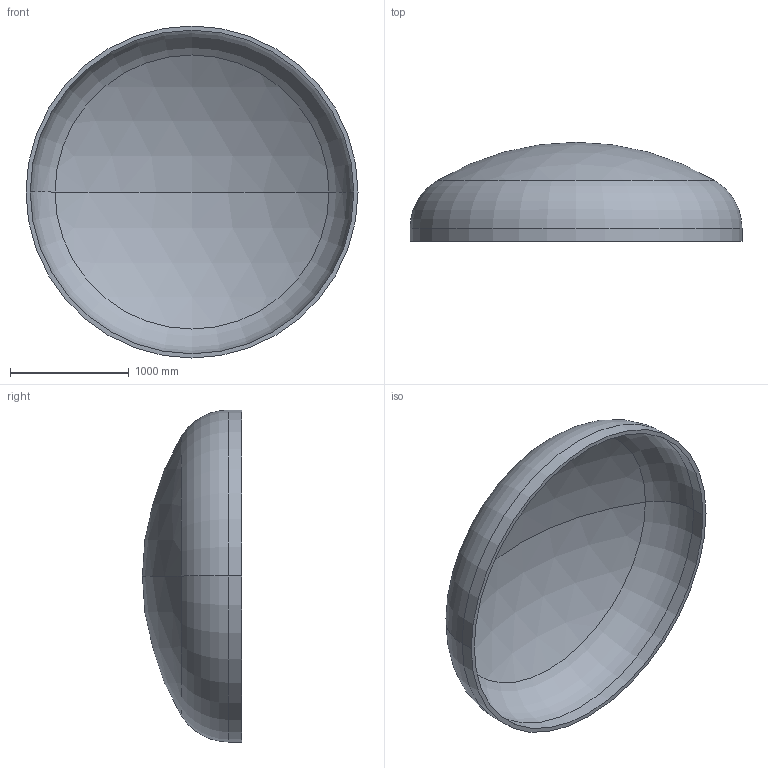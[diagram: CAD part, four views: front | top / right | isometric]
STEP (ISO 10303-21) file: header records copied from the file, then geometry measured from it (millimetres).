
FILE_DESCRIPTION (( 'STEP AP203' ), '1' );
FILE_NAME ('DIN 28013 Korbbogenform_-_Boden DIN 28013 - 2800 x 110 - I - s=36.step', '2016-07-01T16:55:46', ( '' ), ( '' ), 'SwSTEP 2.0', 'SolidWorks 2013', '' );
FILE_SCHEMA (( 'CONFIG_CONTROL_DESIGN' ));
Length unit declared in the file: millimetre
Products named in the file (1): DIN 28013 Korbbogenform_-_Boden DIN 28013 - 2800 x 110 - I - s=36
Bounding box: 2800 x 835.6 x 2800 mm (x, y, z)
Volume: 336058098.5 mm3; surface area: 18985203.1 mm2
Topology: 1 solids, 1 shells, 13 faces, 24 edges, 14 vertices
Faces by surface type: torus 4, cylinder 4, sphere 4, plane 1
Entity records: 407 total; most frequent: DIRECTION 72, CARTESIAN_POINT 52, ORIENTED_EDGE 48, AXIS2_PLACEMENT_3D 34, EDGE_CURVE 24, CIRCLE 20, VERTEX_POINT 14, EDGE_LOOP 14
